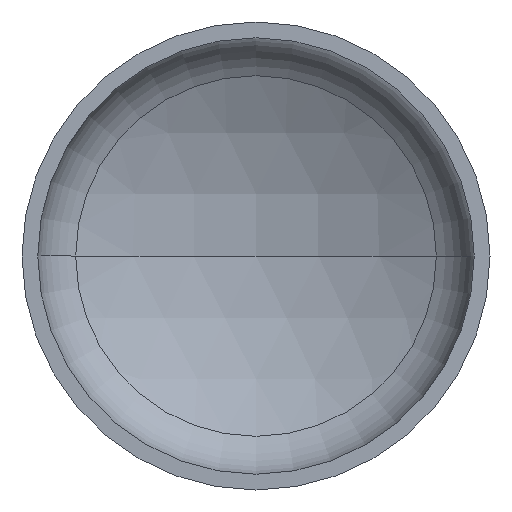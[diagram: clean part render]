
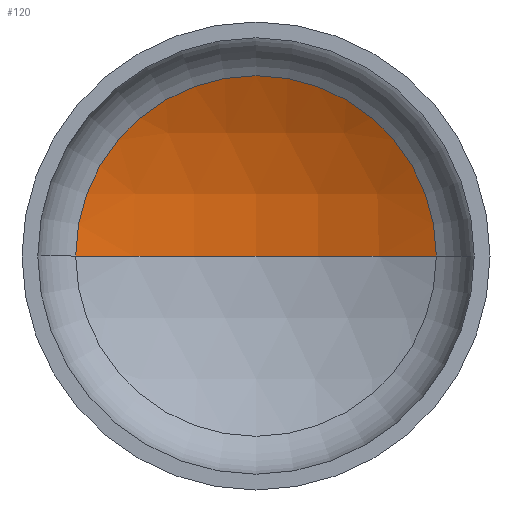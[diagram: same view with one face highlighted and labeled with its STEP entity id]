
A CAD part, front view. The second image highlights one B-rep face of the part: STEP entity #120.
In plain terms, the highlighted spherical face has radius 640 mm.
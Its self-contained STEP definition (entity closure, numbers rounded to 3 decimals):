
#3 = AXIS2_PLACEMENT_3D ( 'NONE', #255, #256, #9 ) ;
#7 = AXIS2_PLACEMENT_3D ( 'NONE', #118, #247, #69 ) ;
#9 = DIRECTION ( 'NONE',  ( -1., 0., 0. ) ) ;
#12 = AXIS2_PLACEMENT_3D ( 'NONE', #226, #392, #163 ) ;
#21 = EDGE_LOOP ( 'NONE', ( #105, #200, #96 ) ) ;
#41 = AXIS2_PLACEMENT_3D ( 'NONE', #300, #157, #173 ) ;
#48 = FACE_OUTER_BOUND ( 'NONE', #21, .T. ) ;
#49 = VERTEX_POINT ( 'NONE', #371 ) ;
#69 = DIRECTION ( 'NONE',  ( 1., 0., 0. ) ) ;
#96 = ORIENTED_EDGE ( 'NONE', *, *, #357, .T. ) ;
#105 = ORIENTED_EDGE ( 'NONE', *, *, #366, .F. ) ;
#118 = CARTESIAN_POINT ( 'NONE',  ( 0., -366.355, 0. ) ) ;
#120 = ADVANCED_FACE ( 'NONE', ( #48 ), #315, .F. ) ;
#128 = VERTEX_POINT ( 'NONE', #286 ) ;
#157 = DIRECTION ( 'NONE',  ( 0., 0., -1. ) ) ;
#160 = VERTEX_POINT ( 'NONE', #177 ) ;
#163 = DIRECTION ( 'NONE',  ( 1., 0., 0. ) ) ;
#173 = DIRECTION ( 'NONE',  ( -1., 0., 0. ) ) ;
#177 = CARTESIAN_POINT ( 'NONE',  ( -308.194, 194.552, 0. ) ) ;
#200 = ORIENTED_EDGE ( 'NONE', *, *, #388, .T. ) ;
#207 = CIRCLE ( 'NONE', #12, 308.194 ) ;
#226 = CARTESIAN_POINT ( 'NONE',  ( 0., 194.552, 0. ) ) ;
#247 = DIRECTION ( 'NONE',  ( 0., 0., 1. ) ) ;
#255 = CARTESIAN_POINT ( 'NONE',  ( 0., -366.355, 0. ) ) ;
#256 = DIRECTION ( 'NONE',  ( 0., 0., -1. ) ) ;
#261 = CIRCLE ( 'NONE', #3, 640. ) ;
#286 = CARTESIAN_POINT ( 'NONE',  ( 0., 273.645, 0. ) ) ;
#300 = CARTESIAN_POINT ( 'NONE',  ( 0., -366.355, 0. ) ) ;
#315 = SPHERICAL_SURFACE ( 'NONE', #41, 640. ) ;
#357 = EDGE_CURVE ( 'NONE', #49, #160, #207, .T. ) ;
#366 = EDGE_CURVE ( 'NONE', #128, #160, #390, .T. ) ;
#371 = CARTESIAN_POINT ( 'NONE',  ( 308.194, 194.552, 0. ) ) ;
#388 = EDGE_CURVE ( 'NONE', #128, #49, #261, .T. ) ;
#390 = CIRCLE ( 'NONE', #7, 640. ) ;
#392 = DIRECTION ( 'NONE',  ( 0., -1., 0. ) ) ;
